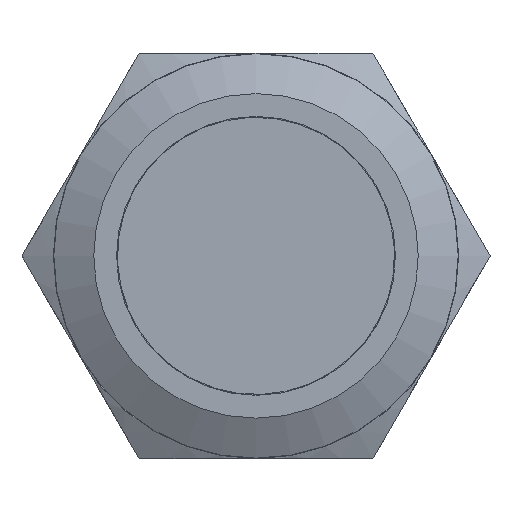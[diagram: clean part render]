
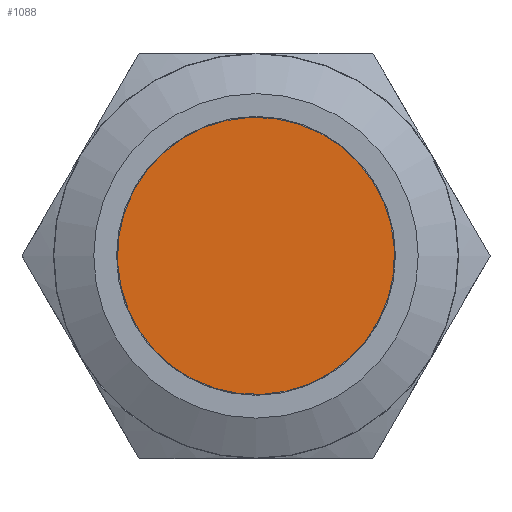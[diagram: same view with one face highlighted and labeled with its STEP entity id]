
A CAD part, top view. The second image highlights one B-rep face of the part: STEP entity #1088.
In plain terms, the highlighted planar face has unit normal (0, 0, 1) as drawn and (0, 0, -1) by its records, which use the part's own axes.
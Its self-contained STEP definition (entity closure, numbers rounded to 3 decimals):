
#845=PLANE('',#4170);
#1088=ADVANCED_FACE('',(#1316),#845,.F.);
#1316=FACE_OUTER_BOUND('',#1501,.T.);
#1501=EDGE_LOOP('',(#2411));
#2411=ORIENTED_EDGE('',*,*,#3605,.F.);
#3286=VERTEX_POINT('',#6447);
#3605=EDGE_CURVE('',#3286,#3286,#4047,.T.);
#4047=CIRCLE('',#4168,8.5);
#4168=AXIS2_PLACEMENT_3D('',#6446,#4506,#4507);
#4170=AXIS2_PLACEMENT_3D('',#6449,#4510,#4511);
#4506=DIRECTION('',(0.,0.,1.));
#4507=DIRECTION('',(1.,0.,0.));
#4510=DIRECTION('',(0.,0.,1.));
#4511=DIRECTION('',(1.,0.,0.));
#6446=CARTESIAN_POINT('',(0.,0.,-1.85));
#6447=CARTESIAN_POINT('',(8.5,0.,-1.85));
#6449=CARTESIAN_POINT('',(0.,0.,-1.85));
